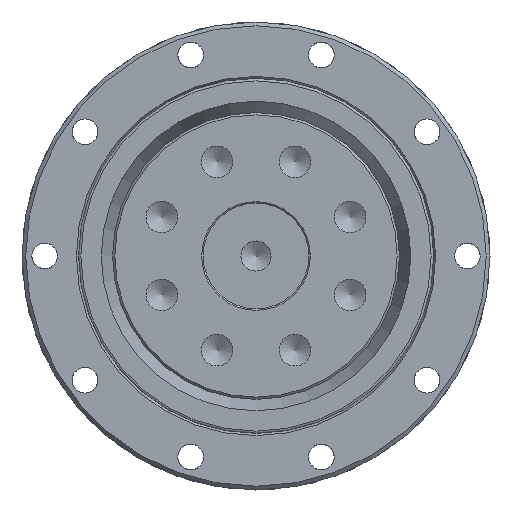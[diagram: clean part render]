
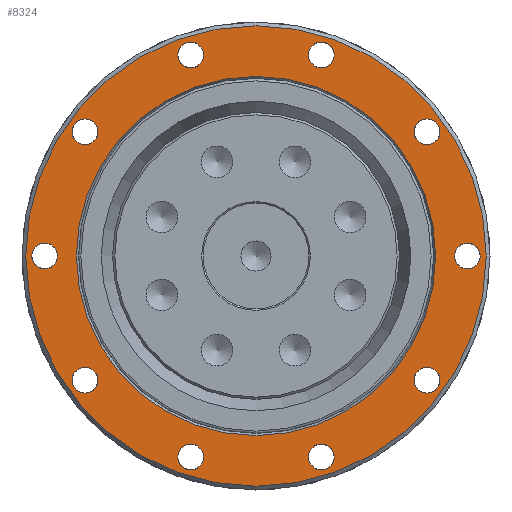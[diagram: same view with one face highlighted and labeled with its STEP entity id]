
A CAD part, left-side view. The second image highlights one B-rep face of the part: STEP entity #8324.
In plain terms, the highlighted planar face has unit normal (-1, 0, 0).
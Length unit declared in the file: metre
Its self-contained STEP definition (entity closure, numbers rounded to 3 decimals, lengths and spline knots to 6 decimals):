
#106 = CIRCLE ( 'NONE', #13574, 0.0017 ) ;
#451 = FACE_BOUND ( 'NONE', #3621, .T. ) ;
#480 = DIRECTION ( 'NONE',  ( 0., 0., -1. ) ) ;
#517 = EDGE_LOOP ( 'NONE', ( #1114 ) ) ;
#544 = FACE_BOUND ( 'NONE', #18294, .T. ) ;
#877 = CARTESIAN_POINT ( 'NONE',  ( -0.018554, 0.008652, -0.02833 ) ) ;
#927 = ORIENTED_EDGE ( 'NONE', *, *, #7828, .T. ) ;
#1114 = ORIENTED_EDGE ( 'NONE', *, *, #6488, .T. ) ;
#1134 = ORIENTED_EDGE ( 'NONE', *, *, #5554, .T. ) ;
#1253 = VERTEX_POINT ( 'NONE', #18659 ) ;
#1752 = AXIS2_PLACEMENT_3D ( 'NONE', #13934, #18587, #10951 ) ;
#1766 = CARTESIAN_POINT ( 'NONE',  ( -0.018554, 0.008652, 0.02663 ) ) ;
#1940 = EDGE_CURVE ( 'NONE', #11092, #11092, #3675, .T. ) ;
#2110 = VERTEX_POINT ( 'NONE', #19419 ) ;
#2208 = DIRECTION ( 'NONE',  ( 1., 0., 0. ) ) ;
#2286 = CARTESIAN_POINT ( 'NONE',  ( -0.018554, -0.008652, -0.02833 ) ) ;
#2311 = CARTESIAN_POINT ( 'NONE',  ( -0.018554, 0.028, -0.0017 ) ) ;
#2839 = EDGE_CURVE ( 'NONE', #9940, #9940, #106, .T. ) ;
#3255 = VERTEX_POINT ( 'NONE', #15929 ) ;
#3547 = FACE_OUTER_BOUND ( 'NONE', #15899, .T. ) ;
#3573 = DIRECTION ( 'NONE',  ( 0., 0., -1. ) ) ;
#3621 = EDGE_LOOP ( 'NONE', ( #927 ) ) ;
#3675 = CIRCLE ( 'NONE', #12214, 0.0017 ) ;
#3693 = DIRECTION ( 'NONE',  ( 1., 0., 0. ) ) ;
#3745 = EDGE_LOOP ( 'NONE', ( #19545 ) ) ;
#3753 = DIRECTION ( 'NONE',  ( 0., 0., -1. ) ) ;
#3996 = CARTESIAN_POINT ( 'NONE',  ( -0.018554, -0.028, 0. ) ) ;
#4019 = CARTESIAN_POINT ( 'NONE',  ( -0.018554, -0.008652, 0.02663 ) ) ;
#4711 = DIRECTION ( 'NONE',  ( 0., 0., -1. ) ) ;
#4872 = EDGE_CURVE ( 'NONE', #7661, #7661, #13134, .T. ) ;
#5192 = FACE_BOUND ( 'NONE', #19879, .T. ) ;
#5296 = DIRECTION ( 'NONE',  ( 1., 0., 0. ) ) ;
#5362 = CIRCLE ( 'NONE', #7993, 0.0017 ) ;
#5554 = EDGE_CURVE ( 'NONE', #3255, #3255, #7578, .T. ) ;
#5945 = AXIS2_PLACEMENT_3D ( 'NONE', #1766, #3693, #15761 ) ;
#6097 = DIRECTION ( 'NONE',  ( 0., 0., 1. ) ) ;
#6200 = DIRECTION ( 'NONE',  ( -1., 0., 0. ) ) ;
#6350 = CIRCLE ( 'NONE', #12910, 0.0017 ) ;
#6488 = EDGE_CURVE ( 'NONE', #16529, #16529, #14547, .T. ) ;
#6496 = ORIENTED_EDGE ( 'NONE', *, *, #4872, .T. ) ;
#6786 = CARTESIAN_POINT ( 'NONE',  ( -0.018554, -0.028, -0.0017 ) ) ;
#6813 = DIRECTION ( 'NONE',  ( 0., 0., -1. ) ) ;
#7114 = CARTESIAN_POINT ( 'NONE',  ( -0.018554, 0.022652, 0.016458 ) ) ;
#7168 = CARTESIAN_POINT ( 'NONE',  ( -0.018554, -0.022652, 0.014758 ) ) ;
#7180 = DIRECTION ( 'NONE',  ( 0., 0., -1. ) ) ;
#7314 = EDGE_CURVE ( 'NONE', #2110, #2110, #6350, .T. ) ;
#7393 = DIRECTION ( 'NONE',  ( 1., 0., 0. ) ) ;
#7578 = CIRCLE ( 'NONE', #5945, 0.0017 ) ;
#7661 = VERTEX_POINT ( 'NONE', #15302 ) ;
#7828 = EDGE_CURVE ( 'NONE', #16422, #16422, #5362, .T. ) ;
#7834 = CARTESIAN_POINT ( 'NONE',  ( -0.018554, 0., 0. ) ) ;
#7993 = AXIS2_PLACEMENT_3D ( 'NONE', #8390, #14697, #3573 ) ;
#8064 = ORIENTED_EDGE ( 'NONE', *, *, #8554, .T. ) ;
#8108 = ORIENTED_EDGE ( 'NONE', *, *, #15142, .T. ) ;
#8287 = EDGE_LOOP ( 'NONE', ( #8108 ) ) ;
#8295 = CARTESIAN_POINT ( 'NONE',  ( -0.018554, -0.008652, 0.02493 ) ) ;
#8324 = ADVANCED_FACE ( 'NONE', ( #451, #14769, #19124, #14671, #544, #11564, #17584, #9819, #9723, #19421, #5192, #3547 ), #16122, .F. ) ;
#8390 = CARTESIAN_POINT ( 'NONE',  ( -0.018554, 0.028, 0. ) ) ;
#8413 = ORIENTED_EDGE ( 'NONE', *, *, #13648, .T. ) ;
#8554 = EDGE_CURVE ( 'NONE', #1253, #1253, #15569, .T. ) ;
#8574 = DIRECTION ( 'NONE',  ( 0., 0., -1. ) ) ;
#8926 = AXIS2_PLACEMENT_3D ( 'NONE', #17544, #17440, #9878 ) ;
#8992 = DIRECTION ( 'NONE',  ( -1., 0., 0. ) ) ;
#9545 = AXIS2_PLACEMENT_3D ( 'NONE', #7834, #6200, #6097 ) ;
#9580 = ORIENTED_EDGE ( 'NONE', *, *, #19780, .T. ) ;
#9723 = FACE_BOUND ( 'NONE', #19587, .T. ) ;
#9819 = FACE_BOUND ( 'NONE', #13218, .T. ) ;
#9878 = DIRECTION ( 'NONE',  ( 0., 0., -1. ) ) ;
#9940 = VERTEX_POINT ( 'NONE', #877 ) ;
#10013 = CARTESIAN_POINT ( 'NONE',  ( -0.018554, 0.022652, -0.018158 ) ) ;
#10108 = EDGE_LOOP ( 'NONE', ( #9580 ) ) ;
#10143 = EDGE_LOOP ( 'NONE', ( #8413 ) ) ;
#10951 = DIRECTION ( 'NONE',  ( 0., 0., -1. ) ) ;
#11092 = VERTEX_POINT ( 'NONE', #8295 ) ;
#11564 = FACE_BOUND ( 'NONE', #10143, .T. ) ;
#11877 = CARTESIAN_POINT ( 'NONE',  ( -0.018554, -0.008652, -0.02663 ) ) ;
#12214 = AXIS2_PLACEMENT_3D ( 'NONE', #4019, #16689, #7180 ) ;
#12704 = AXIS2_PLACEMENT_3D ( 'NONE', #11877, #2208, #6813 ) ;
#12910 = AXIS2_PLACEMENT_3D ( 'NONE', #7114, #16844, #8574 ) ;
#13134 = CIRCLE ( 'NONE', #9545, 0.0305 ) ;
#13218 = EDGE_LOOP ( 'NONE', ( #14890 ) ) ;
#13298 = EDGE_LOOP ( 'NONE', ( #15353 ) ) ;
#13356 = VERTEX_POINT ( 'NONE', #7168 ) ;
#13574 = AXIS2_PLACEMENT_3D ( 'NONE', #15733, #17392, #4711 ) ;
#13648 = EDGE_CURVE ( 'NONE', #16210, #16210, #20402, .T. ) ;
#13796 = CARTESIAN_POINT ( 'NONE',  ( -0.018554, 0., 0.023789 ) ) ;
#13905 = VERTEX_POINT ( 'NONE', #13796 ) ;
#13934 = CARTESIAN_POINT ( 'NONE',  ( -0.018554, -0.022652, -0.016458 ) ) ;
#14547 = CIRCLE ( 'NONE', #8926, 0.0017 ) ;
#14671 = FACE_BOUND ( 'NONE', #8287, .T. ) ;
#14697 = DIRECTION ( 'NONE',  ( 1., 0., 0. ) ) ;
#14769 = FACE_BOUND ( 'NONE', #517, .T. ) ;
#14890 = ORIENTED_EDGE ( 'NONE', *, *, #1940, .T. ) ;
#15142 = EDGE_CURVE ( 'NONE', #15155, #15155, #17986, .T. ) ;
#15155 = VERTEX_POINT ( 'NONE', #2286 ) ;
#15285 = DIRECTION ( 'NONE',  ( 0., 0., 1. ) ) ;
#15302 = CARTESIAN_POINT ( 'NONE',  ( -0.018554, 0., 0.0305 ) ) ;
#15353 = ORIENTED_EDGE ( 'NONE', *, *, #2839, .T. ) ;
#15569 = CIRCLE ( 'NONE', #1752, 0.0017 ) ;
#15689 = AXIS2_PLACEMENT_3D ( 'NONE', #16849, #8992, #15285 ) ;
#15733 = CARTESIAN_POINT ( 'NONE',  ( -0.018554, 0.008652, -0.02663 ) ) ;
#15761 = DIRECTION ( 'NONE',  ( 0., 0., -1. ) ) ;
#15899 = EDGE_LOOP ( 'NONE', ( #6496 ) ) ;
#15927 = AXIS2_PLACEMENT_3D ( 'NONE', #18358, #7393, #19698 ) ;
#15929 = CARTESIAN_POINT ( 'NONE',  ( -0.018554, 0.008652, 0.02493 ) ) ;
#16021 = CARTESIAN_POINT ( 'NONE',  ( -0.018554, 0.023789, 0. ) ) ;
#16122 = PLANE ( 'NONE',  #17214 ) ;
#16210 = VERTEX_POINT ( 'NONE', #6786 ) ;
#16279 = EDGE_CURVE ( 'NONE', #13905, #13905, #18651, .T. ) ;
#16422 = VERTEX_POINT ( 'NONE', #2311 ) ;
#16529 = VERTEX_POINT ( 'NONE', #10013 ) ;
#16575 = DIRECTION ( 'NONE',  ( 1., 0., 0. ) ) ;
#16689 = DIRECTION ( 'NONE',  ( 1., 0., 0. ) ) ;
#16844 = DIRECTION ( 'NONE',  ( 1., 0., 0. ) ) ;
#16849 = CARTESIAN_POINT ( 'NONE',  ( -0.018554, 0., 0. ) ) ;
#17214 = AXIS2_PLACEMENT_3D ( 'NONE', #16021, #5296, #3753 ) ;
#17280 = CIRCLE ( 'NONE', #15927, 0.0017 ) ;
#17392 = DIRECTION ( 'NONE',  ( 1., 0., 0. ) ) ;
#17440 = DIRECTION ( 'NONE',  ( 1., 0., 0. ) ) ;
#17544 = CARTESIAN_POINT ( 'NONE',  ( -0.018554, 0.022652, -0.016458 ) ) ;
#17584 = FACE_BOUND ( 'NONE', #10108, .T. ) ;
#17986 = CIRCLE ( 'NONE', #12704, 0.0017 ) ;
#18294 = EDGE_LOOP ( 'NONE', ( #8064 ) ) ;
#18358 = CARTESIAN_POINT ( 'NONE',  ( -0.018554, -0.022652, 0.016458 ) ) ;
#18482 = ORIENTED_EDGE ( 'NONE', *, *, #16279, .F. ) ;
#18587 = DIRECTION ( 'NONE',  ( 1., 0., 0. ) ) ;
#18651 = CIRCLE ( 'NONE', #15689, 0.023789 ) ;
#18659 = CARTESIAN_POINT ( 'NONE',  ( -0.018554, -0.022652, -0.018158 ) ) ;
#19124 = FACE_BOUND ( 'NONE', #13298, .T. ) ;
#19403 = AXIS2_PLACEMENT_3D ( 'NONE', #3996, #16575, #480 ) ;
#19419 = CARTESIAN_POINT ( 'NONE',  ( -0.018554, 0.022652, 0.014758 ) ) ;
#19421 = FACE_BOUND ( 'NONE', #3745, .T. ) ;
#19545 = ORIENTED_EDGE ( 'NONE', *, *, #7314, .T. ) ;
#19587 = EDGE_LOOP ( 'NONE', ( #1134 ) ) ;
#19698 = DIRECTION ( 'NONE',  ( 0., 0., -1. ) ) ;
#19780 = EDGE_CURVE ( 'NONE', #13356, #13356, #17280, .T. ) ;
#19879 = EDGE_LOOP ( 'NONE', ( #18482 ) ) ;
#20402 = CIRCLE ( 'NONE', #19403, 0.0017 ) ;
